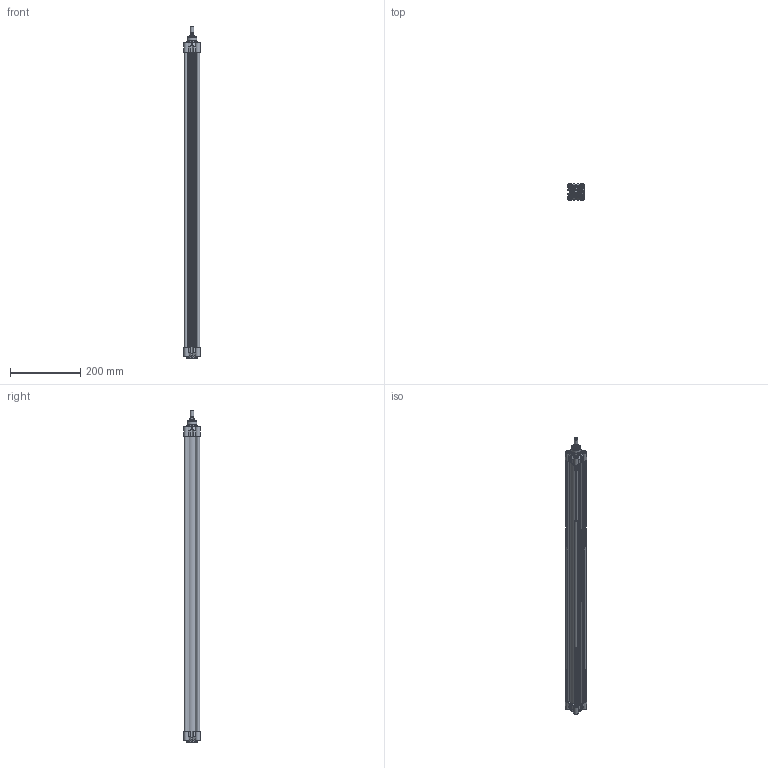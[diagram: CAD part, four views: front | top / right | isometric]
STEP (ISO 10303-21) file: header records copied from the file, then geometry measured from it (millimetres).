
FILE_DESCRIPTION(/* description */ ('CILINDRO D.E. MAGNETICO AMMORTIZZATO ISO 15552'),/* implementation_level */ '2;1');
FILE_NAME(/* name */ 'T:\Archivio Inventor\- 00 NUOVI STP PER SITO CON STELO CHE SI MUOVE\SERIE H - U\SERIE HDM\HDM032-TUBO NUOVO\HDM032.800.GS.M.stp',/* time_stamp */ '2018-07-25T14:30:49+02:00',/* author */ ('carlo.corazza'),/* organization */ (''),/* preprocessor_version */ 'ST-DEVELOPER v16.5',/* originating_system */ 'Autodesk Inventor 2017',/* authorisation */ '');
FILE_SCHEMA (('AUTOMOTIVE_DESIGN { 1 0 10303 214 3 1 1 }'));
Length unit declared in the file: millimetre
Products named in the file (5): HDM032.800.GS.M; TP; STELO-800; TA; CORPO-800
Assembly tree (4 placements, depth 2):
  HDM032.800.GS.M
    TP
    STELO-800
    TA
    CORPO-800
Bounding box: 47 x 47 x 946 mm (x, y, z)
Volume: 615465.8 mm3; surface area: 470565.4 mm2
Topology: 4 solids, 18 shells, 969 faces, 2356 edges, 1494 vertices
Faces by surface type: plane 330, cylinder 260, bspline 190, cone 86, torus 83, sphere 20
Full cylindrical faces by diameter (mm): 2 x2, 2.1 x2, 4 x2, 4.5 x2, 4.917 x8, 6 x8, 6.2 x8, 6.3 x4, 7 x2, 7.8 x4, 7.9 x3, 8 x4, 8.566 x2, 10 x9, 10.3 x8, 11.6 x1, 12 x1, 12.8 x1, 12.847 x1, 16 x1, 17 x2, 22 x3, 28 x1, 30 x2, 32 x1
Entity records: 31186 total; most frequent: CARTESIAN_POINT 9171, ORIENTED_EDGE 4162, DIRECTION 4048, EDGE_CURVE 2081, AXIS2_PLACEMENT_3D 1569, VERTEX_POINT 1436, EDGE_LOOP 1302, FACE_OUTER_BOUND 969
